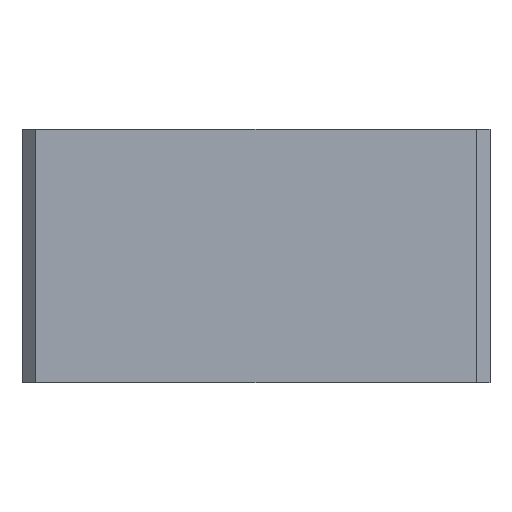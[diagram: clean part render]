
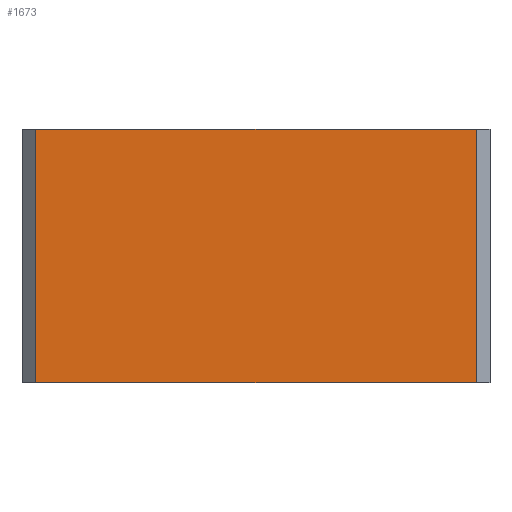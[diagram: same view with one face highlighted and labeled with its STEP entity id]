
A CAD part, front view. The second image highlights one B-rep face of the part: STEP entity #1673.
In plain terms, the highlighted planar face has unit normal (0, -1, 0).
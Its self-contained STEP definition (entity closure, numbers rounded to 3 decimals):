
#364=CARTESIAN_POINT('',(15.74,-7.85,-2.5));
#365=VERTEX_POINT('',#364);
#372=CARTESIAN_POINT('',(-15.74,-7.85,-2.5));
#373=VERTEX_POINT('',#372);
#374=CARTESIAN_POINT('',(15.74,-7.85,-2.5));
#375=DIRECTION('',(-1.0,0.0,0.0));
#376=VECTOR('',#375,31.48);
#377=LINE('',#374,#376);
#378=EDGE_CURVE('',#365,#373,#377,.T.);
#612=CARTESIAN_POINT('',(15.74,-7.85,15.6));
#613=VERTEX_POINT('',#612);
#620=CARTESIAN_POINT('',(15.74,-7.85,15.6));
#621=DIRECTION('',(0.0,0.0,-1.0));
#622=VECTOR('',#621,18.1);
#623=LINE('',#620,#622);
#624=EDGE_CURVE('',#613,#365,#623,.T.);
#769=CARTESIAN_POINT('',(-15.74,-7.85,15.6));
#770=VERTEX_POINT('',#769);
#777=CARTESIAN_POINT('',(-15.74,-7.85,15.6));
#778=DIRECTION('',(1.0,0.0,0.0));
#779=VECTOR('',#778,31.48);
#780=LINE('',#777,#779);
#781=EDGE_CURVE('',#770,#613,#780,.T.);
#851=CARTESIAN_POINT('',(-15.74,-7.85,-2.5));
#852=DIRECTION('',(0.0,0.0,1.0));
#853=VECTOR('',#852,18.1);
#854=LINE('',#851,#853);
#855=EDGE_CURVE('',#373,#770,#854,.T.);
#1662=CARTESIAN_POINT('',(16.74,-7.85,0.0));
#1663=DIRECTION('',(0.0,-1.0,0.0));
#1664=DIRECTION('',(-1.0,0.0,0.0));
#1665=AXIS2_PLACEMENT_3D('',#1662,#1663,#1664);
#1666=PLANE('',#1665);
#1667=ORIENTED_EDGE('',*,*,#624,.F.);
#1668=ORIENTED_EDGE('',*,*,#781,.F.);
#1669=ORIENTED_EDGE('',*,*,#855,.F.);
#1670=ORIENTED_EDGE('',*,*,#378,.F.);
#1671=EDGE_LOOP('',(#1667,#1668,#1669,#1670));
#1672=FACE_OUTER_BOUND('',#1671,.T.);
#1673=ADVANCED_FACE('',(#1672),#1666,.T.);
